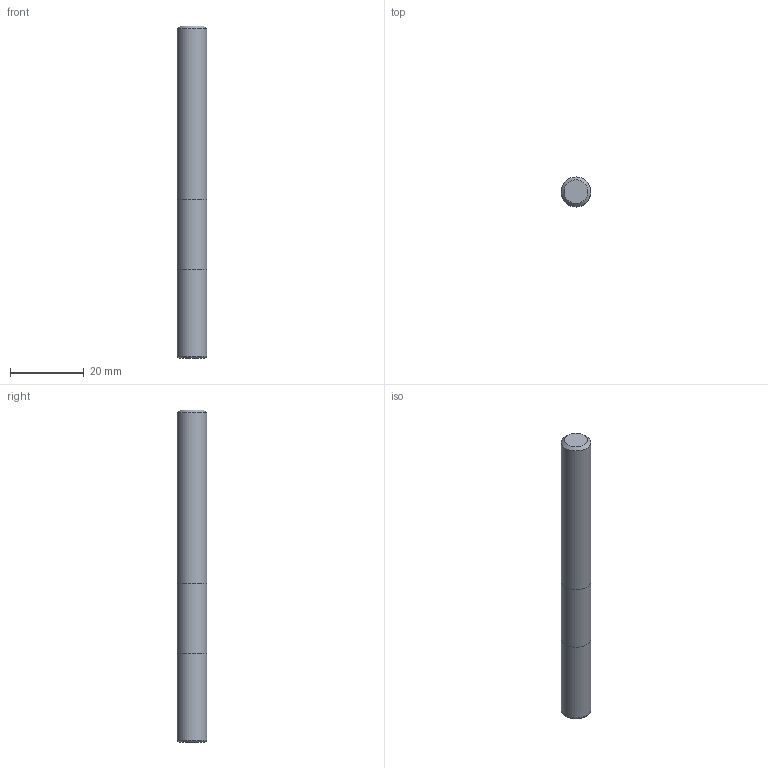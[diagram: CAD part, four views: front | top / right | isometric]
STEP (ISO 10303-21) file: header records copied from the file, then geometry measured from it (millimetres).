
FILE_DESCRIPTION((''),'2;1');
FILE_NAME('C:\Users\nsx150\AppData\Local\Temp\Mastercam 2021\03UJLO2QV3\TEMP.step','2023-09-20T09:29:59',(''),(''),'STEP Write','Mastercam 2021 ... CNC Software, Inc.','');
FILE_SCHEMA(('AUTOMOTIVE_DESIGN'));
Length unit declared in the file: millimetre
Products named in the file (1): None
Bounding box: 8 x 8 x 90 mm (x, y, z)
Volume: 4515.1 mm3; surface area: 2444.9 mm2
Topology: 2 solids, 2 shells, 9 faces, 12 edges, 7 vertices
Faces by surface type: plane 4, cylinder 3, torus 1, cone 1
Full cylindrical faces by diameter (mm): 8 x3
Entity records: 211 total; most frequent: DIRECTION 36, CARTESIAN_POINT 25, AXIS2_PLACEMENT_3D 18, ORIENTED_EDGE 14, EDGE_LOOP 14, STYLED_ITEM 12, ADVANCED_FACE 9, FACE_BOUND 9
